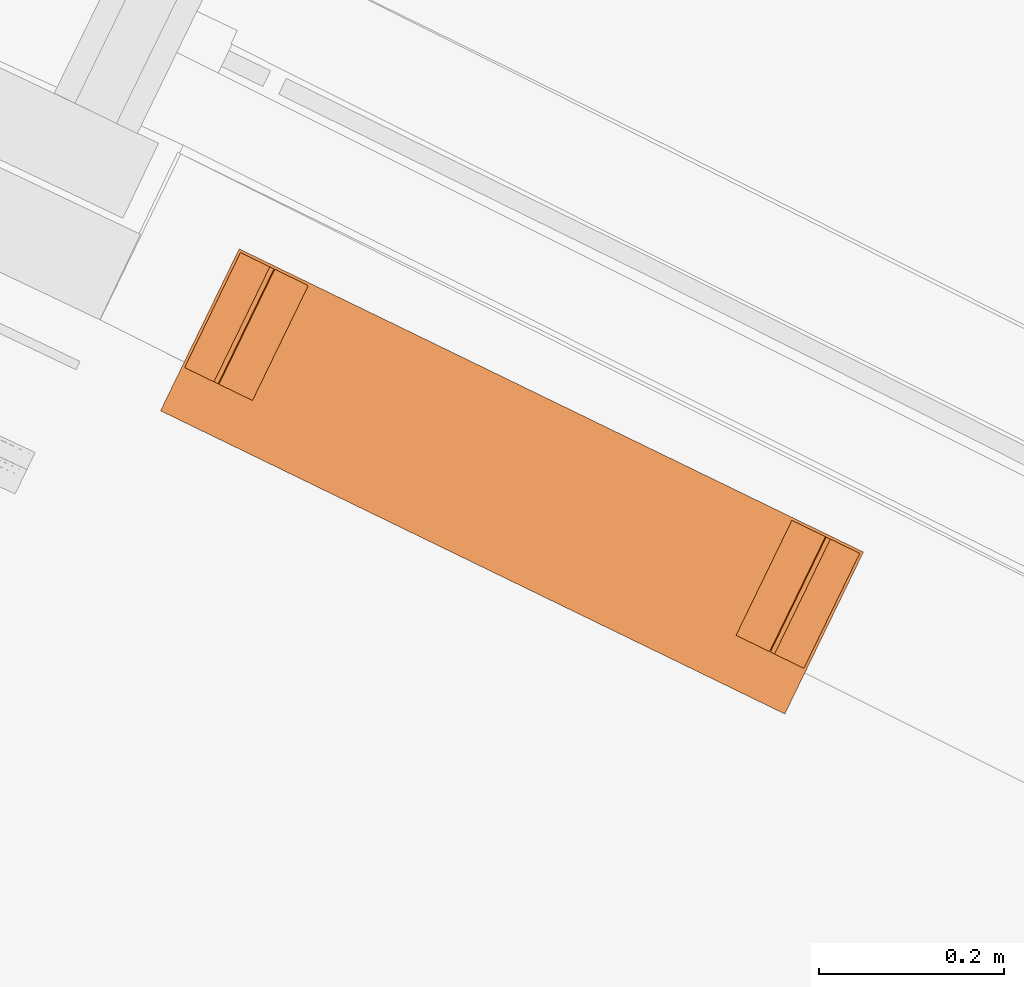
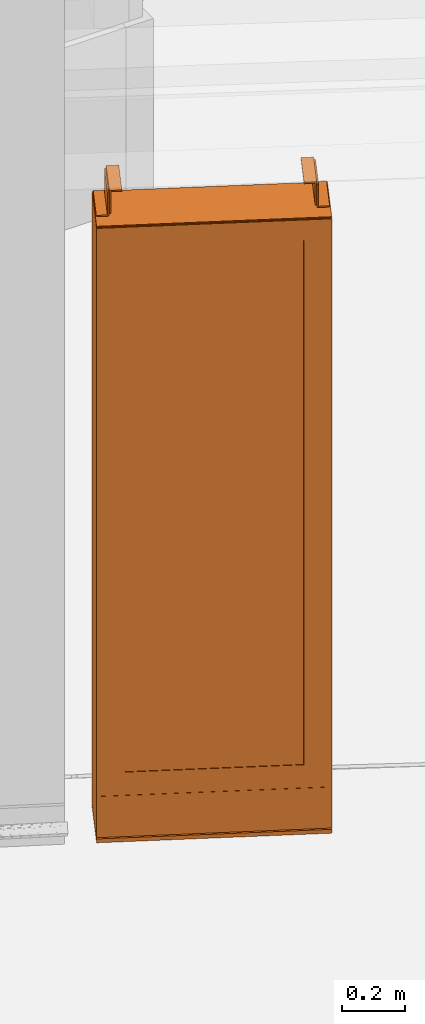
# One storey, part 16 of 16: 1 proxy.
"""IFC2X3 building model written with IfcOpenShell, lengths in millimetres."""

from ifc_helpers import new_model, entity, si_unit, converted_unit, derived_unit, direction, frame, origin, origin_with_axes, place, context, subcontext, project, spatial, faceted_brep, source, transform, mapped, material, type_object, element, save


model = new_model("IFC2X3")

# Units and contexts
model_context = context("Model", 3, precision=0.01, world=frame((0.0, 4.29681676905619e-09, 0.0)), true_north=direction((4.01073788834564e-13, 1.0)))
plan_context = context("Plan", 3, precision=0.01, world=frame((0.0, 4.29681676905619e-09, 0.0)), true_north=direction((4.01073788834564e-13, 1.0)))
body_context = subcontext(model_context, "Body", "Model", "MODEL_VIEW")
ifc_project = project(units=[converted_unit("PLANEANGLEUNIT", "DEGREE", entity("IfcPositiveLengthMeasure", 0.0174532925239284), si_unit("PLANEANGLEUNIT", "RADIAN"), dimensions=[0, 0, 0, 0, 0, 0, 0]), si_unit("AREAUNIT", "SQUARE_METRE"), si_unit("LENGTHUNIT", "METRE", prefix="MILLI"), si_unit("MASSUNIT", "GRAM", prefix="KILO"), si_unit("POWERUNIT", "WATT"), si_unit("PRESSUREUNIT", "PASCAL"), si_unit("FORCEUNIT", "NEWTON", prefix="KILO"), si_unit("ELECTRICCURRENTUNIT", "AMPERE"), si_unit("THERMODYNAMICTEMPERATUREUNIT", "DEGREE_CELSIUS"), si_unit("TIMEUNIT", "SECOND"), si_unit("VOLUMEUNIT", "CUBIC_METRE"), derived_unit("LINEARVELOCITYUNIT", [(si_unit("LENGTHUNIT", "METRE"), 1), (si_unit("TIMEUNIT", "SECOND"), -1)]), derived_unit("VOLUMETRICFLOWRATEUNIT", [(si_unit("VOLUMEUNIT", "CUBIC_METRE"), 1), (si_unit("TIMEUNIT", "SECOND"), -1)]), derived_unit("THERMALTRANSMITTANCEUNIT", [(si_unit("POWERUNIT", "WATT"), 1), (si_unit("THERMODYNAMICTEMPERATUREUNIT", "KELVIN"), -1), (si_unit("AREAUNIT", "SQUARE_METRE"), -1)])], contexts=[model_context, plan_context])

# Site, building, storey
site_placement = place(None, origin_with_axes())
site = spatial("IfcSite", under=ifc_project, at=site_placement, Name="ENGM", CompositionType="ELEMENT")
building_placement = place(site_placement, origin_with_axes())
building = spatial("IfcBuilding", under=site, at=building_placement, Name="TS", CompositionType="ELEMENT")
storey_placement = place(building_placement, frame((0.0, 0.0, 204000.0), z_axis=(0.0, 0.0, 1.0), x_axis=(1.0, 0.0, 0.0)))
storey = spatial("IfcBuildingStorey", under=building, at=storey_placement, Name="Nivå D", CompositionType="ELEMENT", Elevation=204000.0)

# Proxy
ifc_material = material(Name="<Unnamed>")
building_element_proxy_type = type_object("IfcBuildingElementProxyType", Name="A275 - Pylon - venstrehengslet:Pylon med topp brakett", PredefinedType="NOTDEFINED", material=ifc_material)
shared_shape = source(origin(), body_context, "Body", "Brep", [
    faceted_brep([(373.0, 53.5000000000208, 2405.0), (337.634540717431, 53.5000000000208, 2405.0), (337.634540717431, 53.5000000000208, 2490.0), (332.634540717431, 53.5000000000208, 2490.0), (332.634540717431, 53.5000000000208, 2400.0), (373.0, 53.5000000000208, 2400.0), (373.0, 192.0, 2400.0), (373.0, 192.0, 2405.0), (332.634540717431, 192.0, 2400.0), (332.634540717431, 192.0, 2490.0), (337.634540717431, 192.0, 2490.0), (337.634540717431, 192.0, 2405.0)], [[[0, 1, 2, 3, 4, 5]], [[0, 5, 6, 7]], [[5, 4, 8, 6]], [[4, 3, 9, 8]], [[3, 2, 10, 9]], [[2, 1, 11, 10]], [[1, 0, 7, 11]], [[7, 6, 8, 9, 10, 11]]]),
    faceted_brep([(291.26908143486, 192.0, 2495.0), (291.26908143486, 192.0, 2500.0), (331.634540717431, 192.0, 2500.0), (331.634540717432, 192.0, 2410.0), (326.634540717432, 192.0, 2410.0), (326.634540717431, 192.0, 2495.0), (291.26908143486, 53.5000000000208, 2495.0), (291.26908143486, 53.5000000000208, 2500.0), (331.634540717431, 53.5000000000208, 2500.0), (331.634540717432, 53.5000000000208, 2410.0), (326.634540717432, 53.5000000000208, 2410.0), (326.634540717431, 53.5000000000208, 2495.0)], [[[0, 1, 2, 3, 4, 5]], [[6, 7, 1, 0]], [[7, 8, 2, 1]], [[8, 9, 3, 2]], [[9, 10, 4, 3]], [[10, 11, 5, 4]], [[11, 6, 0, 5]], [[6, 11, 10, 9, 8, 7]]]),
    faceted_brep([(-291.26908143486, 53.5000000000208, 2495.0), (-291.26908143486, 53.5000000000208, 2500.0), (-331.634540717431, 53.5000000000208, 2500.0), (-331.634540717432, 53.5000000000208, 2410.0), (-326.634540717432, 53.5000000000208, 2410.0), (-326.634540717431, 53.5000000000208, 2495.0), (-291.26908143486, 192.0, 2495.0), (-291.26908143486, 192.0, 2500.0), (-331.634540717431, 192.0, 2500.0), (-331.634540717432, 192.0, 2410.0), (-326.634540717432, 192.0, 2410.0), (-326.634540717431, 192.0, 2495.0)], [[[0, 1, 2, 3, 4, 5]], [[1, 0, 6, 7]], [[2, 1, 7, 8]], [[3, 2, 8, 9]], [[4, 3, 9, 10]], [[5, 4, 10, 11]], [[0, 5, 11, 6]], [[6, 11, 10, 9, 8, 7]]]),
    faceted_brep([(-373.0, 192.0, 2405.0), (-337.634540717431, 192.0, 2405.0), (-337.634540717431, 192.0, 2490.0), (-332.634540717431, 192.0, 2490.0), (-332.634540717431, 192.0, 2400.0), (-373.0, 192.0, 2400.0), (-373.0, 53.5000000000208, 2400.0), (-373.0, 53.5000000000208, 2405.0), (-332.634540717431, 53.5000000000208, 2400.0), (-332.634540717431, 53.5000000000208, 2490.0), (-337.634540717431, 53.5000000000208, 2490.0), (-337.634540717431, 53.5000000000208, 2405.0)], [[[0, 1, 2, 3, 4, 5]], [[6, 7, 0, 5]], [[8, 6, 5, 4]], [[9, 8, 4, 3]], [[10, 9, 3, 2]], [[11, 10, 2, 1]], [[7, 11, 1, 0]], [[7, 6, 8, 9, 10, 11]]]),
    faceted_brep([(376.0, 41.0, 2390.98999999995), (-376.0, 41.0, 2390.98999999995), (-376.0, 1.0, 2390.98999999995), (376.0, 1.0, 2390.98999999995), (373.0, 38.0, 2390.98999999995), (373.0, 4.0, 2390.98999999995), (-373.0, 4.0, 2390.98999999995), (-373.0, 38.0, 2390.98999999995), (376.0, 41.0, 180.0), (376.0, 1.0, 180.0), (-376.0, 1.0, 180.0), (-376.0, 41.0, 180.0), (373.0, 38.0, 180.0), (-373.0, 38.0, 180.0), (-373.0, 4.0, 180.0), (373.0, 4.0, 180.0), (-286.5, 1.0, 2310.98999999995), (286.500000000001, 1.0, 2310.98999999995), (286.500000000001, 1.0, 270.189999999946), (-286.5, 1.0, 270.189999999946), (286.500000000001, 3.0, 2310.98999999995), (-286.5, 3.0, 2310.98999999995), (-286.5, 3.0, 270.189999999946), (286.500000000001, 3.0, 270.189999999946)], [[[0, 1, 2, 3], [4, 5, 6, 7]], [[8, 9, 10, 11], [12, 13, 14, 15]], [[1, 0, 8, 11]], [[2, 1, 11, 10]], [[3, 2, 10, 9], [16, 17, 18, 19]], [[0, 3, 9, 8]], [[20, 21, 22, 23]], [[21, 20, 17, 16]], [[22, 21, 16, 19]], [[23, 22, 19, 18]], [[20, 23, 18, 17]], [[5, 4, 12, 15]], [[6, 5, 15, 14]], [[7, 6, 14, 13]], [[4, 7, 13, 12]]]),
    faceted_brep([(376.0, 41.0, 180.0), (-376.0, 41.0, 180.0), (-376.0, 0.0, 180.0), (376.0, 0.0, 180.0), (373.0, 38.0, 180.0), (373.0, 3.0, 180.0), (-373.0, 3.0, 180.0), (-373.0, 38.0, 180.0), (376.0, 41.0, 20.0), (376.0, 0.0, 20.0), (-376.0, 0.0, 20.0), (-376.0, 41.0, 20.0), (373.0, 38.0, 20.0), (-373.0, 38.0, 20.0), (-373.0, 3.0, 20.0), (373.0, 3.0, 20.0)], [[[0, 1, 2, 3], [4, 5, 6, 7]], [[8, 9, 10, 11], [12, 13, 14, 15]], [[1, 0, 8, 11]], [[2, 1, 11, 10]], [[3, 2, 10, 9]], [[0, 3, 9, 8]], [[5, 4, 12, 15]], [[6, 5, 15, 14]], [[7, 6, 14, 13]], [[4, 7, 13, 12]]]),
    faceted_brep([(376.0, 195.0, 2400.1), (-376.0, 195.0, 2400.1), (-376.0, 0.0, 2400.1), (376.0, 0.0, 2400.1), (376.0, 195.0, 2396.1), (376.0, 0.0, 2396.1), (-376.0, 0.0, 2396.1), (-376.0, 195.0, 2396.1)], [[[0, 1, 2, 3]], [[4, 5, 6, 7]], [[1, 0, 4, 7]], [[2, 1, 7, 6]], [[3, 2, 6, 5]], [[0, 3, 5, 4]]]),
    faceted_brep([(376.0, 195.0, 15.0), (-376.0, 195.0, 15.0), (-376.0, 0.0, 15.0), (376.0, 0.0, 15.0), (376.0, 195.0, 0.0), (376.0, 0.0, 0.0), (-376.0, 0.0, 0.0), (-376.0, 195.0, 0.0)], [[[0, 1, 2, 3]], [[4, 5, 6, 7]], [[1, 0, 4, 7]], [[2, 1, 7, 6]], [[3, 2, 6, 5]], [[0, 3, 5, 4]]]),
    faceted_brep([(360.0, 50.5000000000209, 2390.98999999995), (-360.0, 50.5000000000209, 2390.98999999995), (-360.0, 41.0, 2390.98999999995), (360.0, 41.0, 2390.98999999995), (360.0, 50.5000000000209, 20.0), (360.0, 41.0, 20.0), (-360.0, 41.0, 20.0), (-360.0, 50.5000000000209, 20.0)], [[[0, 1, 2, 3]], [[4, 5, 6, 7]], [[1, 0, 4, 7]], [[2, 1, 7, 6]], [[3, 2, 6, 5]], [[0, 3, 5, 4]]]),
    faceted_brep([(376.0, 195.0, 2393.8), (-376.0, 195.0, 2393.8), (-376.0, 50.5000000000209, 2393.8), (376.0, 50.5000000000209, 2393.8), (373.0, 192.0, 2393.8), (373.0, 53.5000000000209, 2393.8), (-373.0, 53.5000000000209, 2393.8), (-373.0, 192.0, 2393.8), (376.0, 195.0, 17.3), (376.0, 50.5000000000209, 17.3), (-376.0, 50.5000000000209, 17.3), (-376.0, 195.0, 17.3), (373.0, 192.0, 17.3), (-373.0, 192.0, 17.3), (-373.0, 53.5000000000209, 17.3), (373.0, 53.5000000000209, 17.3)], [[[0, 1, 2, 3], [4, 5, 6, 7]], [[8, 9, 10, 11], [12, 13, 14, 15]], [[1, 0, 8, 11]], [[2, 1, 11, 10]], [[3, 2, 10, 9]], [[0, 3, 9, 8]], [[5, 4, 12, 15]], [[6, 5, 15, 14]], [[7, 6, 14, 13]], [[4, 7, 13, 12]]]),
])
proxy_placement = place(storey_placement, frame((517030.984005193, 411997.970660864, 0.0), z_axis=(0.0, 0.0, 1.0), x_axis=(0.899529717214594, -0.436859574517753, 0.0)))
element("IfcBuildingElementProxy", 1, at=proxy_placement, inside=storey, type_object=building_element_proxy_type, material=ifc_material, Name="A275 - Pylon - venstrehengslet:Pylon med topp brakett", ObjectType="A275 - Pylon - venstrehengslet:Pylon med topp brakett", context=body_context, shape_type="MappedRepresentation", body=[
    mapped(shared_shape, transform((0.0, 0.0, 0.0), scale=1.0)),
])

save(model, "model.ifc")
